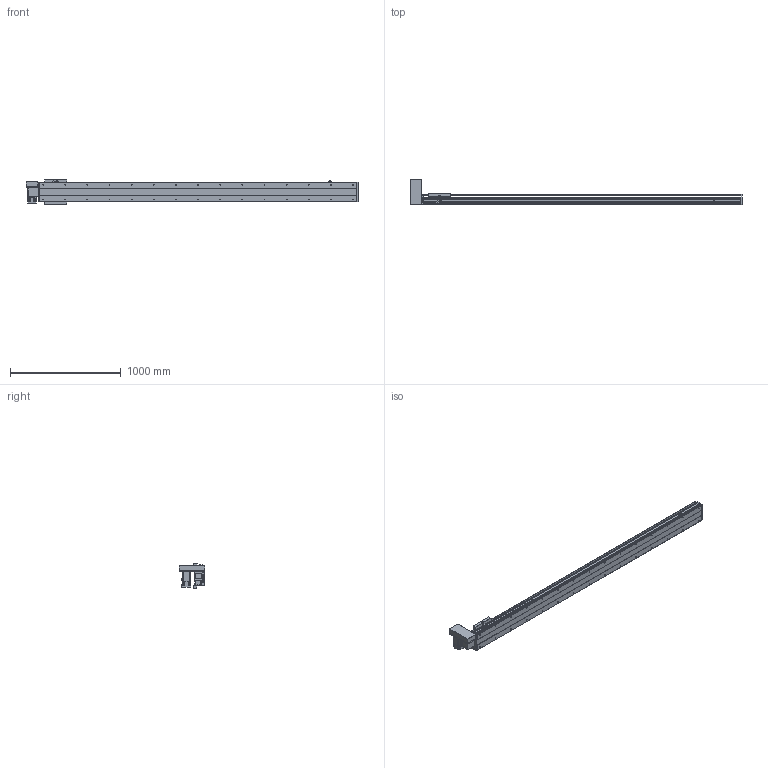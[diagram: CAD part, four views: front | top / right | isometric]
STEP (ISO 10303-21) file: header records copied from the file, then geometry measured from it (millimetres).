
FILE_DESCRIPTION(/* description */ ('STEP AP214'),/* implementation_level */ '2;1');
FILE_NAME(/* name */ 'PBS200-P40-S2500-RU-T75-C1-N(0)',/* time_stamp */ '2022-06-11T09:37:24+02:00',/* author */ ('License CC BY-ND 4.0'),/* organization */ ('CADENAS'),/* preprocessor_version */ 'ST-DEVELOPER v18.102',/* originating_system */ 'PARTsolutions',/* authorisation */ ' ');
FILE_SCHEMA (('AUTOMOTIVE_DESIGN {1 0 10303 214 3 1 1}'));
Length unit declared in the file: millimetre
Products named in the file (7): PBS200-P40-S2500-RU-T75-C1-N(0); PBS200_sensor; PBS200_plant; PBS200_sliser; T75-p1; PBS200T-RU_motors; PBS200-S2500()_body
Assembly tree (8 placements, depth 2):
  PBS200-P40-S2500-RU-T75-C1-N(0)
    PBS200_sensor  x3
    PBS200_plant
    PBS200_sliser
    T75-p1
    PBS200T-RU_motors
    PBS200-S2500()_body
Bounding box: 3000 x 231 x 221 mm (x, y, z)
Volume: 20604311.7 mm3; surface area: 3296122 mm2
Topology: 8 solids, 8 shells, 962 faces, 2444 edges, 1590 vertices
Faces by surface type: plane 588, cylinder 312, cone 62
Full cylindrical faces by diameter (mm): 2.459 x6, 3.242 x4, 4.5 x6, 4.917 x4, 5 x6, 6 x7, 6.6 x8, 6.647 x34, 8 x6, 10 x4, 12 x8, 38 x2, 40 x1, 70 x1
Entity records: 25421 total; most frequent: DIRECTION 4495, CARTESIAN_POINT 4318, ORIENTED_EDGE 4066, EDGE_CURVE 2033, AXIS2_PLACEMENT_3D 1591, VERTEX_POINT 1414, LINE 1313, VECTOR 1313
